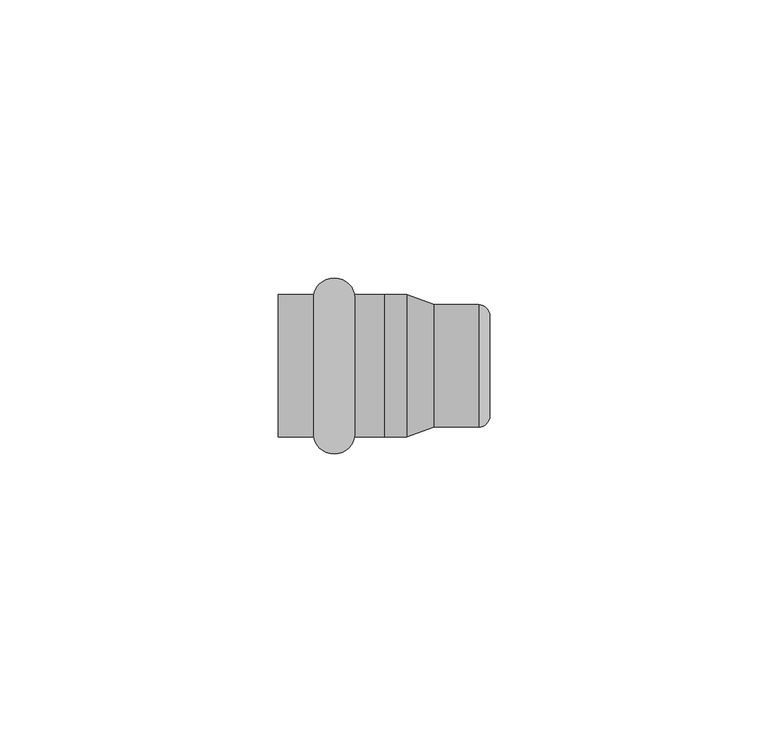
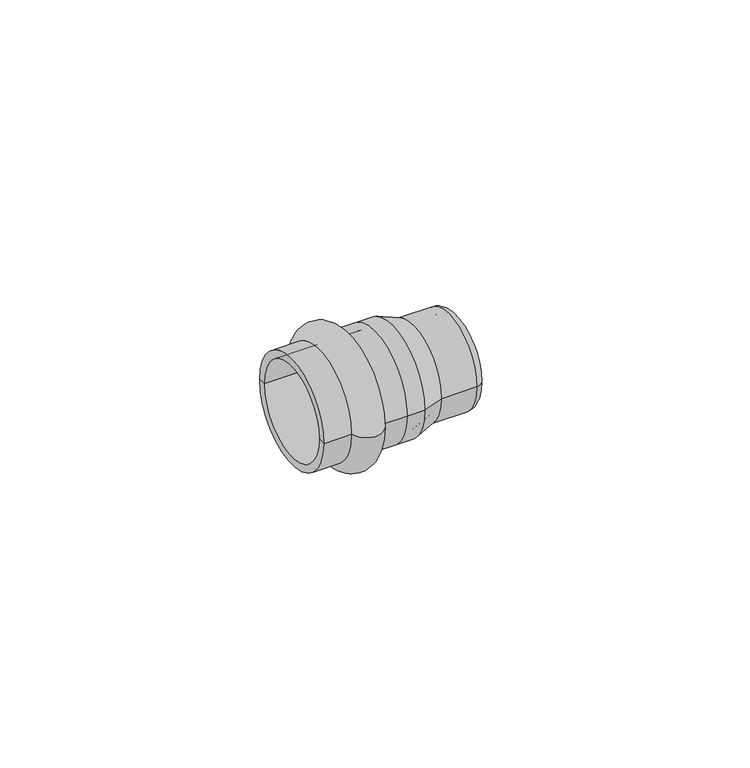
"""IFC4 building model written with IfcOpenShell, lengths in millimetres: pipe fitting geometry, VALTEC_VTi.961.I_Заглушка_нержавеющая : VTi.961.I."""

import ifcopenshell
import ifcopenshell.guid

model = None  # the IFC model being written
_history = None  # IfcOwnerHistory: only IFC2X3 demands one
_inside = {}  # id of a spatial element -> (the spatial element, [elements in it])
_under = {}  # id of a project, library or spatial element -> (it, [spatial elements below it])
_declared = {}  # id of a project -> (the project, [libraries it declares])
_typed = {}  # id of a type object -> (the type object, [elements of that type])
_made_of = {}  # id of a material, layer set ... -> (it, [elements and type objects made of it])


def new_model(schema):
    """Start an empty IFC model of exactly this schema.

    Asked for "IFC4X3", IfcOpenShell would pick the latest addendum, in which some entities
    have other attributes; the version numbers below select the first issue.
    IFC2X3 requires an IfcOwnerHistory on every rooted entity: one is made here for all.
    """
    global model, _history
    if schema == "IFC4X3":
        model = ifcopenshell.file(schema_version=(4, 3, 0, 0))
    else:
        model = ifcopenshell.file(schema=schema)
    _inside.clear()
    _under.clear()
    _declared.clear()
    _typed.clear()
    _made_of.clear()
    _history = None
    if model.schema == "IFC2X3":
        org = make("IfcOrganization", Name="unknown")
        user = make(
            "IfcPersonAndOrganization",
            ThePerson=make("IfcPerson", FamilyName="unknown"),
            TheOrganization=org,
        )
        app = make(
            "IfcApplication",
            ApplicationDeveloper=org,
            Version="unknown",
            ApplicationFullName="unknown",
            ApplicationIdentifier="unknown",
        )
        _history = make(
            "IfcOwnerHistory",
            OwningUser=user,
            OwningApplication=app,
            ChangeAction="ADDED",
            CreationDate=0,
        )
    return model


def make(cls, **values):
    """One entity of the class cls with the attributes given. An attribute that is None is left unset."""
    return model.create_entity(
        cls, **{name: value for name, value in values.items() if value is not None}
    )


def rooted(cls, **values):
    """An entity with a GlobalId (a new one), such as an element, a storey or a relation."""
    return make(cls, GlobalId=ifcopenshell.guid.new(), OwnerHistory=_history, **values)


def si_unit(unit_type, name, prefix=None):
    """IfcSIUnit, for example si_unit("LENGTHUNIT", "METRE", prefix="MILLI")."""
    return make("IfcSIUnit", UnitType=unit_type, Prefix=prefix, Name=name)


def assignment(units):
    """IfcUnitAssignment: the units of a project."""
    return None if units is None else make("IfcUnitAssignment", Units=units)


def point(xyz):
    """IfcCartesianPoint."""
    return None if xyz is None else make("IfcCartesianPoint", Coordinates=xyz)


def direction(xyz):
    """IfcDirection."""
    return None if xyz is None else make("IfcDirection", DirectionRatios=xyz)


def frame(location, z_axis=None, x_axis=None):
    """IfcAxis2Placement3D, a coordinate frame: its origin and axes. An axis left out is left unset."""
    return make(
        "IfcAxis2Placement3D",
        Location=point(location),
        Axis=direction(z_axis),
        RefDirection=direction(x_axis),
    )


def origin():
    """The frame at (0, 0, 0) with its axes left unset."""
    return frame((0.0, 0.0, 0.0))


def place(relative_to, where):
    """IfcLocalPlacement: puts the frame where relative to a parent placement (None: the world)."""
    return make(
        "IfcLocalPlacement", PlacementRelTo=relative_to, RelativePlacement=where
    )


def context(
    kind, dimensions, precision=None, world=None, true_north=None, identifier=None
):
    """IfcGeometricRepresentationContext, for example the 3D "Model" context."""
    return make(
        "IfcGeometricRepresentationContext",
        ContextIdentifier=identifier,
        ContextType=kind,
        CoordinateSpaceDimension=dimensions,
        Precision=precision,
        WorldCoordinateSystem=world,
        TrueNorth=true_north,
    )


def project(units=None, contexts=None):
    """IfcProject with its units and contexts."""
    return rooted(
        "IfcProject",
        Name="project",
        RepresentationContexts=contexts,
        UnitsInContext=assignment(units),
    )


def spatial(cls, under=None, at=None, **own):
    """A site, building, storey or space (cls), placed at a placement, below another one or the project."""
    s = rooted(cls, ObjectPlacement=at, **own)
    if under is not None:
        _under.setdefault(under.id(), (under, []))[1].append(s)
    return s


def polyline(points):
    """IfcPolyline through the points."""
    return make("IfcPolyline", Points=[point(p) for p in points])


def circle_curve(where, radius):
    """IfcCircle in the frame where."""
    return make("IfcCircle", Position=where, Radius=radius)


def ellipse_curve(where, semi_axis1, semi_axis2):
    """IfcEllipse in the frame where."""
    return make(
        "IfcEllipse", Position=where, SemiAxis1=semi_axis1, SemiAxis2=semi_axis2
    )


def trimmed(basis, trim1, trim2, sense, master):
    """IfcTrimmedCurve: the piece of a basis curve between two trims."""
    return make(
        "IfcTrimmedCurve",
        BasisCurve=basis,
        Trim1=trim1,
        Trim2=trim2,
        SenseAgreement=sense,
        MasterRepresentation=master,
    )


def shape(context_of_items, identifier, shape_type, items):
    """IfcShapeRepresentation: the items that make up one representation, for example the "Body"."""
    return make(
        "IfcShapeRepresentation",
        ContextOfItems=context_of_items,
        RepresentationIdentifier=identifier,
        RepresentationType=shape_type,
        Items=items,
    )


def source(mapping_origin, context_of_items, identifier, shape_type, items):
    """IfcRepresentationMap: a shape defined once, which mapped items show again and again."""
    return make(
        "IfcRepresentationMap",
        MappingOrigin=mapping_origin,
        MappedRepresentation=shape(context_of_items, identifier, shape_type, items),
    )


def transform(
    local_origin,
    x_axis=None,
    y_axis=None,
    z_axis=None,
    scale=None,
    scale2=None,
    scale3=None,
    uniform=True,
):
    """IfcCartesianTransformationOperator3D, or its non-uniform kind. x_axis, y_axis, z_axis: its Axis1, 2, 3."""
    if uniform:
        return make(
            "IfcCartesianTransformationOperator3D",
            Axis1=direction(x_axis),
            Axis2=direction(y_axis),
            LocalOrigin=point(local_origin),
            Scale=scale,
            Axis3=direction(z_axis),
        )
    return make(
        "IfcCartesianTransformationOperator3DnonUniform",
        Axis1=direction(x_axis),
        Axis2=direction(y_axis),
        LocalOrigin=point(local_origin),
        Scale=scale,
        Axis3=direction(z_axis),
        Scale2=scale2,
        Scale3=scale3,
    )


def mapped(mapping_source, mapping_target):
    """IfcMappedItem: shows the shape of a source again, moved by a transform."""
    return make(
        "IfcMappedItem", MappingSource=mapping_source, MappingTarget=mapping_target
    )


def made_of(thing, what):
    """Note that an element or type object is made of a material, layer set ...; save() writes the relation."""
    if what is not None:
        _made_of.setdefault(what.id(), (what, []))[1].append(thing)
    return thing


def element(
    cls,
    number,
    at=None,
    inside=None,
    cuts=None,
    type_object=None,
    material=None,
    context=None,
    identifier="Body",
    shape_type=None,
    held_by="IfcProductDefinitionShape",
    body=None,
    shapes=None,
    **own,
):
    """One element of the class cls, such as IfcWall. Its Tag is "e" and its number.

    at: its placement. inside: the storey or other place that contains it. cuts: it is an
    opening in that element (IfcRelVoidsElement). A single representation is given by context,
    identifier, shape_type and body (its items); several are given by shapes. held_by: the class
    of the entity that holds the representations. save() writes the other relations.
    """
    e = rooted(cls, Tag="e%d" % number, ObjectPlacement=at, **own)
    if body is not None:
        shapes = [shape(context, identifier, shape_type, body)]
    if shapes is not None:
        e.Representation = make(held_by, Representations=shapes)
    if inside is not None:
        _inside.setdefault(inside.id(), (inside, []))[1].append(e)
    if cuts is not None:
        rooted(
            "IfcRelVoidsElement", RelatingBuildingElement=cuts, RelatedOpeningElement=e
        )
    if type_object is not None:
        _typed.setdefault(type_object.id(), (type_object, []))[1].append(e)
    return made_of(e, material)


def aggregate(whole, parts):
    """IfcRelAggregates: a whole, such as a stair, and the parts it consists of."""
    return rooted("IfcRelAggregates", RelatingObject=whole, RelatedObjects=parts)


def save(model, path):
    """Write the relations noted so far, then the file.

    IfcRelAggregates (storeys below a building ...), IfcRelContainedInSpatialStructure (elements
    in a storey), IfcRelDefinesByType, IfcRelAssociatesMaterial and IfcRelDeclares: one each for
    every whole, place, type object, material and project.
    """
    for whole, parts in _under.values():
        aggregate(whole, parts)
    for where, things in _inside.values():
        rooted(
            "IfcRelContainedInSpatialStructure",
            RelatedElements=things,
            RelatingStructure=where,
        )
    for kind, things in _typed.values():
        rooted("IfcRelDefinesByType", RelatedObjects=things, RelatingType=kind)
    for what, things in _made_of.values():
        rooted("IfcRelAssociatesMaterial", RelatedObjects=things, RelatingMaterial=what)
    for by, libraries in _declared.values():
        rooted("IfcRelDeclares", RelatingContext=by, RelatedDefinitions=libraries)
    model.write(path)


def plane_surface(at):
    """IfcPlane: the flat surface through the origin of the frame at, square to its z axis."""
    return make("IfcPlane", Position=at)


def cylinder_surface(at, radius):
    """IfcCylindricalSurface: all points at the distance radius from the z axis of the frame at."""
    return make("IfcCylindricalSurface", Position=at, Radius=radius)


def revolved_surface(curve, axis_point, axis_direction):
    """IfcSurfaceOfRevolution: the curve turned about the line through axis_point along axis_direction."""
    return make(
        "IfcSurfaceOfRevolution",
        SweptCurve=make("IfcArbitraryOpenProfileDef", ProfileType="CURVE", Curve=curve),
        AxisPosition=make("IfcAxis1Placement", Location=point(axis_point), Axis=direction(axis_direction)),
    )


def advanced_brep(points, edges, surfaces, faces):
    """IfcAdvancedBrep: a solid bounded by faces that lie on surfaces and meet in shared edges.

    An edge is (start, end): straight between two places in points (the first is 0);
    or (start, end, curve); or (start, end, curve, False) where it runs against its curve.
    A face is (place in surfaces, loops), or (place, loops, False) where it looks against
    its surface's normal. A loop lists edges by number (the first is 1), with a minus sign
    where the edge is run from its end to its start. The first loop is the outer one.
    """
    corners = [point(p) for p in points]
    vertices = [make("IfcVertexPoint", VertexGeometry=c) for c in corners]
    made = []
    for start, end, *more in edges:
        made.append(
            make(
                "IfcEdgeCurve",
                EdgeStart=vertices[start],
                EdgeEnd=vertices[end],
                EdgeGeometry=more[0] if more else make("IfcPolyline", Points=[corners[start], corners[end]]),
                SameSense=more[1] if len(more) > 1 else True,
            )
        )
    hull = []
    for where, loops, *sense in faces:
        bounds = []
        for j, loop in enumerate(loops):
            ring = [make("IfcOrientedEdge", EdgeElement=made[abs(k) - 1], Orientation=k > 0) for k in loop]
            bounds.append(
                make(
                    "IfcFaceOuterBound" if j == 0 else "IfcFaceBound",
                    Bound=make("IfcEdgeLoop", EdgeList=ring),
                    Orientation=True,
                )
            )
        hull.append(make("IfcAdvancedFace", Bounds=bounds, FaceSurface=surfaces[where], SameSense=sense[0] if sense else True))
    return make("IfcAdvancedBrep", Outer=make("IfcClosedShell", CfsFaces=hull))


def pipe_fitting_f8f8ab8f(model_context):
    return source(origin(), model_context, "Body", "AdvancedBrep", [
        advanced_brep(
        [(6.3757654, -12.8, 0.0), (6.3757654, 12.8, 0.0), (13.7242346, 12.8, 0.0), (13.7242346, -12.8, 0.0), (0.0, -12.8, 0.0), (0.0, 12.8, 0.0), (0.0, -11.0, 0.0), (0.0, 11.0, 0.0), (19.0, -11.0, 0.0), (19.0, 11.0, 0.0), (19.0, -12.8, 0.0), (19.0, 12.8, 0.0)],
        [
            (0, 1, circle_curve(frame((6.3757654, 0.0, 0.0), z_axis=(1.0, 0.0, 0.0), x_axis=(0.0, 1.0, 0.0)), 12.8)),
            (1, 2, circle_curve(frame((10.05, 12.05, 0.0), z_axis=(0.0, 0.0, -1.0), x_axis=(1.0, 0.0, 0.0)), 3.75)),
            (2, 3, circle_curve(frame((13.7242346, 0.0, 0.0), z_axis=(-1.0, 0.0, 0.0), x_axis=(0.0, 1.0, 0.0)), 12.8)),
            (3, 0, circle_curve(frame((10.05, -12.05, 0.0), z_axis=(0.0, 0.0, -1.0), x_axis=(1.0, 0.0, 0.0)), 3.75)),
            (1, 0, circle_curve(frame((6.3757654, 0.0, 0.0), z_axis=(1.0, 0.0, 0.0), x_axis=(0.0, 1.0, 0.0)), 12.8)),
            (3, 2, circle_curve(frame((13.7242346, 0.0, 0.0), z_axis=(-1.0, 0.0, 0.0), x_axis=(0.0, 1.0, 0.0)), 12.8)),
            (4, 5, circle_curve(frame((0.0, 0.0, 0.0), z_axis=(1.0, 0.0, 0.0), x_axis=(0.0, 1.0, 0.0)), 12.8)),
            (5, 1),
            (0, 4),
            (5, 4, circle_curve(frame((0.0, 0.0, 0.0), z_axis=(1.0, 0.0, 0.0), x_axis=(0.0, 1.0, 0.0)), 12.8)),
            (6, 7, circle_curve(frame((0.0, 0.0, 0.0), z_axis=(1.0, 0.0, 0.0), x_axis=(0.0, 1.0, 0.0)), 11.0)),
            (7, 5),
            (4, 6),
            (7, 6, circle_curve(frame((0.0, 0.0, 0.0), z_axis=(1.0, 0.0, 0.0), x_axis=(0.0, 1.0, 0.0)), 11.0)),
            (8, 9, circle_curve(frame((19.0, 0.0, 0.0), z_axis=(1.0, 0.0, 0.0), x_axis=(0.0, 1.0, 0.0)), 11.0)),
            (9, 7),
            (6, 8),
            (9, 8, circle_curve(frame((19.0, 0.0, 0.0), z_axis=(1.0, 0.0, 0.0), x_axis=(0.0, 1.0, 0.0)), 11.0)),
            (10, 11, circle_curve(frame((19.0, 0.0, 0.0), z_axis=(1.0, 0.0, 0.0), x_axis=(0.0, 1.0, 0.0)), 12.8)),
            (11, 9),
            (8, 10),
            (11, 10, circle_curve(frame((19.0, 0.0, 0.0), z_axis=(1.0, 0.0, 0.0), x_axis=(0.0, 1.0, 0.0)), 12.8)),
            (2, 11),
            (10, 3),
        ],
        [
            revolved_surface(trimmed(ellipse_curve(frame((10.05, 12.05, 0.0), z_axis=(0.0, 0.0, 1.0), x_axis=(1.0, 0.0, 0.0)), 3.75, 3.75), [point((13.7242346, 12.8, 0.0))], [point((6.3757654, 12.8, 0.0))], True, "CARTESIAN"), (-3.5364426, 0.0, 0.0), (-1.0, 0.0, 0.0)),
            cylinder_surface(frame((-3.5364426, 0.0, 0.0), z_axis=(-1.0, 0.0, 0.0), x_axis=(0.0, 1.0, 0.0)), 12.8),
            plane_surface(frame((0.0, 0.0, 0.0), z_axis=(-1.0, 0.0, 0.0), x_axis=(0.0, 1.0, 0.0))),
            revolved_surface(polyline([(0.0, 11.0, 0.0), (19.0, 11.0, 0.0)]), (-3.5364426, 0.0, 0.0), (-1.0, 0.0, 0.0)),
            plane_surface(frame((19.0, 0.0, 0.0), z_axis=(1.0, 0.0, 0.0), x_axis=(0.0, 1.0, 0.0))),
        ],
        [
            (0, [[1, 2, 3, 4]]),
            (0, [[5, -4, 6, -2]]),
            (1, [[7, 8, -1, 9]]),
            (1, [[10, -9, -5, -8]]),
            (2, [[11, 12, -7, 13]]),
            (2, [[14, -13, -10, -12]]),
            (3, [[15, 16, -11, 17]]),
            (3, [[18, -17, -14, -16]]),
            (4, [[19, 20, -15, 21]]),
            (4, [[22, -21, -18, -20]]),
            (1, [[-3, 23, -19, 24]]),
            (1, [[-6, -24, -22, -23]]),
        ],
    ),
        advanced_brep(
        [(19.0, -12.8, 0.0), (19.0, 12.8, 0.0), (23.0545406, 12.8, 0.0), (23.0545406, -12.8, 0.0), (23.0545406, -11.0, 0.0), (23.0545406, 11.0, 0.0), (19.0, 11.0, 0.0), (19.0, -11.0, 0.0), (36.2, -9.2, 0.0), (36.2, 9.2, 0.0), (28.0, 9.2, 0.0), (28.0, -9.2, 0.0), (36.2, 0.0, 0.0), (38.0, -9.0, 0.0), (38.0, 9.0, 0.0), (38.0, 0.0, 0.0), (28.0, -11.0, 0.0), (28.0, 11.0, 0.0), (36.0, 11.0, 0.0), (36.0, -11.0, 0.0)],
        [
            (0, 1, circle_curve(frame((19.0, 0.0, 0.0), z_axis=(1.0, 0.0, 0.0), x_axis=(0.0, 1.0, 0.0)), 12.8)),
            (1, 2),
            (2, 3, circle_curve(frame((23.0545406, 0.0, 0.0), z_axis=(-1.0, 0.0, 0.0), x_axis=(0.0, 1.0, 0.0)), 12.8)),
            (3, 0),
            (1, 0, circle_curve(frame((19.0, 0.0, 0.0), z_axis=(1.0, 0.0, 0.0), x_axis=(0.0, 1.0, 0.0)), 12.8)),
            (3, 2, circle_curve(frame((23.0545406, 0.0, 0.0), z_axis=(-1.0, 0.0, 0.0), x_axis=(0.0, 1.0, 0.0)), 12.8)),
            (4, 5, circle_curve(frame((23.0545406, 0.0, 0.0), z_axis=(1.0, 0.0, 0.0), x_axis=(0.0, 1.0, 0.0)), 11.0)),
            (5, 6),
            (6, 7, circle_curve(frame((19.0, 0.0, 0.0), z_axis=(-1.0, 0.0, 0.0), x_axis=(0.0, 1.0, 0.0)), 11.0)),
            (7, 4),
            (5, 4, circle_curve(frame((23.0545406, 0.0, 0.0), z_axis=(1.0, 0.0, 0.0), x_axis=(0.0, 1.0, 0.0)), 11.0)),
            (7, 6, circle_curve(frame((19.0, 0.0, 0.0), z_axis=(-1.0, 0.0, 0.0), x_axis=(0.0, 1.0, 0.0)), 11.0)),
            (6, 1),
            (0, 7),
            (8, 9, circle_curve(frame((36.2, 0.0, 0.0), z_axis=(1.0, 0.0, 0.0), x_axis=(0.0, 1.0, 0.0)), 9.2)),
            (9, 10),
            (10, 11, circle_curve(frame((28.0, 0.0, 0.0), z_axis=(-1.0, 0.0, 0.0), x_axis=(0.0, 1.0, 0.0)), 9.2)),
            (11, 8),
            (9, 8, circle_curve(frame((36.2, 0.0, 0.0), z_axis=(1.0, 0.0, 0.0), x_axis=(0.0, 1.0, 0.0)), 9.2)),
            (11, 10, circle_curve(frame((28.0, 0.0, 0.0), z_axis=(-1.0, 0.0, 0.0), x_axis=(0.0, 1.0, 0.0)), 9.2)),
            (12, 9),
            (8, 12),
            (13, 14, circle_curve(frame((38.0, 0.0, 0.0), z_axis=(1.0, 0.0, 0.0), x_axis=(0.0, 1.0, 0.0)), 9.0)),
            (14, 15),
            (15, 13),
            (14, 13, circle_curve(frame((38.0, 0.0, 0.0), z_axis=(1.0, 0.0, 0.0), x_axis=(0.0, 1.0, 0.0)), 9.0)),
            (16, 17, circle_curve(frame((28.0, 0.0, 0.0), z_axis=(1.0, 0.0, 0.0), x_axis=(0.0, 1.0, 0.0)), 11.0)),
            (17, 18),
            (18, 19, circle_curve(frame((36.0, 0.0, 0.0), z_axis=(-1.0, 0.0, 0.0), x_axis=(0.0, 1.0, 0.0)), 11.0)),
            (19, 16),
            (17, 16, circle_curve(frame((28.0, 0.0, 0.0), z_axis=(1.0, 0.0, 0.0), x_axis=(0.0, 1.0, 0.0)), 11.0)),
            (19, 18, circle_curve(frame((36.0, 0.0, 0.0), z_axis=(-1.0, 0.0, 0.0), x_axis=(0.0, 1.0, 0.0)), 11.0)),
            (2, 17),
            (16, 3),
            (10, 5),
            (4, 11),
            (18, 14, circle_curve(frame((36.0, 9.0, 0.0), z_axis=(0.0, 0.0, -1.0), x_axis=(1.0, 0.0, 0.0)), 2.0)),
            (13, 19, circle_curve(frame((36.0, -9.0, 0.0), z_axis=(0.0, 0.0, -1.0), x_axis=(1.0, 0.0, 0.0)), 2.0)),
        ],
        [
            cylinder_surface(frame((-40.0167378, 0.0, 0.0), z_axis=(-1.0, 0.0, 0.0), x_axis=(0.0, 1.0, 0.0)), 12.8),
            revolved_surface(polyline([(19.0, 11.0, 0.0), (23.054540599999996, 11.0, 0.0)]), (-40.0167378, 0.0, 0.0), (-1.0, 0.0, 0.0)),
            plane_surface(frame((19.0, 0.0, 0.0), z_axis=(-1.0, 0.0, 0.0), x_axis=(0.0, 1.0, 0.0))),
            revolved_surface(polyline([(28.0, 9.2, 0.0), (36.2, 9.2, 0.0)]), (-40.0167378, 0.0, 0.0), (-1.0, 0.0, 0.0)),
            plane_surface(frame((36.2, 0.0, 0.0), z_axis=(-1.0, 0.0, 0.0), x_axis=(0.0, 1.0, 0.0))),
            plane_surface(frame((38.0, 0.0, 0.0), z_axis=(1.0, 0.0, 0.0), x_axis=(0.0, 1.0, 0.0))),
            cylinder_surface(frame((-40.0167378, 0.0, 0.0), z_axis=(-1.0, 0.0, 0.0), x_axis=(0.0, 1.0, 0.0)), 11.0),
            revolved_surface(polyline([(28.0, 11.0, 0.0), (23.0545406, 12.8, 0.0)]), (-40.0167378, 0.0, 0.0), (-1.0, 0.0, 0.0)),
            revolved_surface(polyline([(23.0545406, 11.0, 0.0), (28.0, 9.2, 0.0)]), (-40.0167378, 0.0, 0.0), (-1.0, 0.0, 0.0)),
            revolved_surface(trimmed(ellipse_curve(frame((36.0, 9.0, 0.0), z_axis=(0.0, 0.0, 1.0), x_axis=(1.0, 0.0, 0.0)), 2.0, 2.0), [point((38.0, 9.0, 0.0))], [point((36.0, 11.0, 0.0))], True, "CARTESIAN"), (-40.0167378, 0.0, 0.0), (-1.0, 0.0, 0.0)),
        ],
        [
            (0, [[1, 2, 3, 4]]),
            (0, [[5, -4, 6, -2]]),
            (1, [[7, 8, 9, 10]]),
            (1, [[11, -10, 12, -8]]),
            (2, [[-9, 13, -1, 14]]),
            (2, [[-12, -14, -5, -13]]),
            (3, [[15, 16, 17, 18]]),
            (3, [[19, -18, 20, -16]]),
            (4, [[21, -15, 22]]),
            (4, [[-22, -19, -21]]),
            (5, [[23, 24, 25]]),
            (5, [[26, -25, -24]]),
            (6, [[27, 28, 29, 30]]),
            (6, [[31, -30, 32, -28]]),
            (7, [[-3, 33, -27, 34]]),
            (7, [[-6, -34, -31, -33]]),
            (8, [[-17, 35, -7, 36]]),
            (8, [[-20, -36, -11, -35]]),
            (9, [[-29, 37, -23, 38]]),
            (9, [[-32, -38, -26, -37]]),
        ],
    ),
    ])


if __name__ == "__main__":
    model = new_model("IFC4")
    model_context = context("Model", 3, world=origin())
    ifc_project = project(units=[si_unit("LENGTHUNIT", "METRE", prefix="MILLI")], contexts=[model_context])
    site = spatial("IfcSite", under=ifc_project)
    building = spatial("IfcBuilding", under=site)
    placement = place(None, origin())
    pipe_fitting_shape = pipe_fitting_f8f8ab8f(model_context)
    element("IfcPipeFitting", 1, ObjectType="VALTEC_VTi.961.I_Заглушка_нержавеющая : VTi.961.I", at=placement, inside=building, context=model_context, shape_type="MappedRepresentation", body=[
        mapped(pipe_fitting_shape, transform((0.0, 0.0, 0.0), x_axis=(1.0, 0.0, 0.0), y_axis=(0.0, 1.0, 0.0), z_axis=(0.0, 0.0, 1.0))),
    ])
    save(model, "model.ifc")
